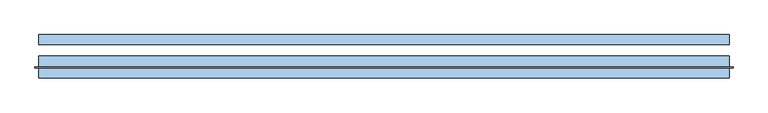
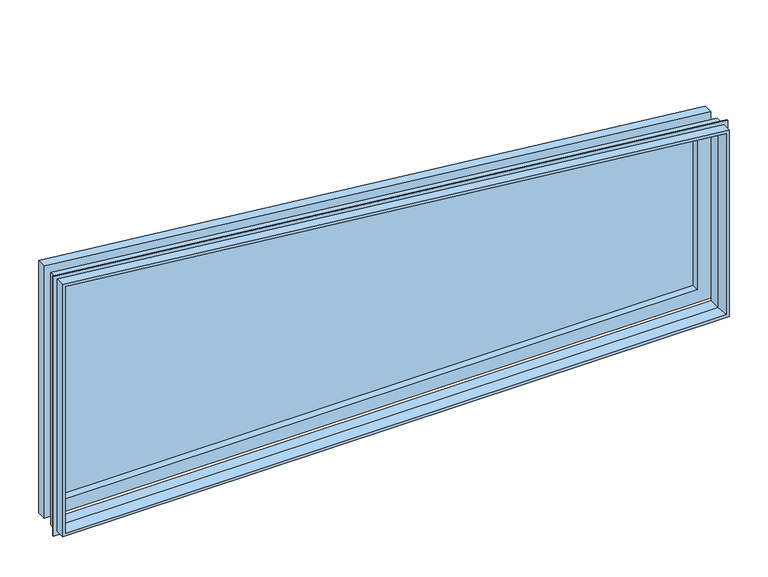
"""IFC4 building model written with IfcOpenShell, lengths in millimetres: window geometry, trapzoid_1824 : Menuiserie 1.1."""

import ifcopenshell
import ifcopenshell.guid

model = None  # the IFC model being written
_history = None  # IfcOwnerHistory: only IFC2X3 demands one
_inside = {}  # id of a spatial element -> (the spatial element, [elements in it])
_under = {}  # id of a project, library or spatial element -> (it, [spatial elements below it])
_declared = {}  # id of a project -> (the project, [libraries it declares])
_typed = {}  # id of a type object -> (the type object, [elements of that type])
_made_of = {}  # id of a material, layer set ... -> (it, [elements and type objects made of it])


def new_model(schema):
    """Start an empty IFC model of exactly this schema.

    Asked for "IFC4X3", IfcOpenShell would pick the latest addendum, in which some entities
    have other attributes; the version numbers below select the first issue.
    IFC2X3 requires an IfcOwnerHistory on every rooted entity: one is made here for all.
    """
    global model, _history
    if schema == "IFC4X3":
        model = ifcopenshell.file(schema_version=(4, 3, 0, 0))
    else:
        model = ifcopenshell.file(schema=schema)
    _inside.clear()
    _under.clear()
    _declared.clear()
    _typed.clear()
    _made_of.clear()
    _history = None
    if model.schema == "IFC2X3":
        org = make("IfcOrganization", Name="unknown")
        user = make(
            "IfcPersonAndOrganization",
            ThePerson=make("IfcPerson", FamilyName="unknown"),
            TheOrganization=org,
        )
        app = make(
            "IfcApplication",
            ApplicationDeveloper=org,
            Version="unknown",
            ApplicationFullName="unknown",
            ApplicationIdentifier="unknown",
        )
        _history = make(
            "IfcOwnerHistory",
            OwningUser=user,
            OwningApplication=app,
            ChangeAction="ADDED",
            CreationDate=0,
        )
    return model


def make(cls, **values):
    """One entity of the class cls with the attributes given. An attribute that is None is left unset."""
    return model.create_entity(
        cls, **{name: value for name, value in values.items() if value is not None}
    )


def rooted(cls, **values):
    """An entity with a GlobalId (a new one), such as an element, a storey or a relation."""
    return make(cls, GlobalId=ifcopenshell.guid.new(), OwnerHistory=_history, **values)


def si_unit(unit_type, name, prefix=None):
    """IfcSIUnit, for example si_unit("LENGTHUNIT", "METRE", prefix="MILLI")."""
    return make("IfcSIUnit", UnitType=unit_type, Prefix=prefix, Name=name)


def assignment(units):
    """IfcUnitAssignment: the units of a project."""
    return None if units is None else make("IfcUnitAssignment", Units=units)


def point(xyz):
    """IfcCartesianPoint."""
    return None if xyz is None else make("IfcCartesianPoint", Coordinates=xyz)


def direction(xyz):
    """IfcDirection."""
    return None if xyz is None else make("IfcDirection", DirectionRatios=xyz)


def frame(location, z_axis=None, x_axis=None):
    """IfcAxis2Placement3D, a coordinate frame: its origin and axes. An axis left out is left unset."""
    return make(
        "IfcAxis2Placement3D",
        Location=point(location),
        Axis=direction(z_axis),
        RefDirection=direction(x_axis),
    )


def origin():
    """The frame at (0, 0, 0) with its axes left unset."""
    return frame((0.0, 0.0, 0.0))


def place(relative_to, where):
    """IfcLocalPlacement: puts the frame where relative to a parent placement (None: the world)."""
    return make(
        "IfcLocalPlacement", PlacementRelTo=relative_to, RelativePlacement=where
    )


def context(
    kind, dimensions, precision=None, world=None, true_north=None, identifier=None
):
    """IfcGeometricRepresentationContext, for example the 3D "Model" context."""
    return make(
        "IfcGeometricRepresentationContext",
        ContextIdentifier=identifier,
        ContextType=kind,
        CoordinateSpaceDimension=dimensions,
        Precision=precision,
        WorldCoordinateSystem=world,
        TrueNorth=true_north,
    )


def project(units=None, contexts=None):
    """IfcProject with its units and contexts."""
    return rooted(
        "IfcProject",
        Name="project",
        RepresentationContexts=contexts,
        UnitsInContext=assignment(units),
    )


def spatial(cls, under=None, at=None, **own):
    """A site, building, storey or space (cls), placed at a placement, below another one or the project."""
    s = rooted(cls, ObjectPlacement=at, **own)
    if under is not None:
        _under.setdefault(under.id(), (under, []))[1].append(s)
    return s


def polyline(points):
    """IfcPolyline through the points."""
    return make("IfcPolyline", Points=[point(p) for p in points])


def outline(outer, holes=None, kind="AREA"):
    """IfcArbitraryClosedProfileDef: a profile drawn as a closed curve; with holes, ...WithVoids."""
    if holes is None:
        return make("IfcArbitraryClosedProfileDef", ProfileType=kind, OuterCurve=outer)
    return make(
        "IfcArbitraryProfileDefWithVoids",
        ProfileType=kind,
        OuterCurve=outer,
        InnerCurves=holes,
    )


def extrude(swept, where, along, depth):
    """IfcExtrudedAreaSolid: the profile swept, set in the frame where, extruded along a direction by depth."""
    return make(
        "IfcExtrudedAreaSolid",
        SweptArea=swept,
        Position=where,
        ExtrudedDirection=direction(along),
        Depth=depth,
    )


def faces_of(points, faces, orient=None, outer=None):
    """IfcFace entities. A face is a list of loops; a loop is a list of indices into points, from 0.

    orient and outer hold one flag for each loop. By default every Orientation is true, the
    first loop of a face is its IfcFaceOuterBound and the others are IfcFaceBound.
    """
    made = []
    for i, loops in enumerate(faces):
        bounds = []
        for j, loop in enumerate(loops):
            is_outer = j == 0 if outer is None else outer[i][j]
            bounds.append(
                make(
                    "IfcFaceOuterBound" if is_outer else "IfcFaceBound",
                    Bound=make("IfcPolyLoop", Polygon=[points[k] for k in loop]),
                    Orientation=True if orient is None else orient[i][j],
                )
            )
        made.append(make("IfcFace", Bounds=bounds))
    return made


def faceted_brep(points, faces, orient=None, outer=None, voids=None):
    """IfcFacetedBrep: a solid bounded by flat faces; with voids (closed shells), ...WithVoids."""
    shared = [point(p) for p in points]
    hull = make("IfcClosedShell", CfsFaces=faces_of(shared, faces, orient, outer))
    if voids is None:
        return make("IfcFacetedBrep", Outer=hull)
    return make(
        "IfcFacetedBrepWithVoids",
        Outer=hull,
        Voids=[
            make(cls, CfsFaces=faces_of(shared, fs, o, b)) for cls, fs, o, b in voids
        ],
    )


def shape(context_of_items, identifier, shape_type, items):
    """IfcShapeRepresentation: the items that make up one representation, for example the "Body"."""
    return make(
        "IfcShapeRepresentation",
        ContextOfItems=context_of_items,
        RepresentationIdentifier=identifier,
        RepresentationType=shape_type,
        Items=items,
    )


def source(mapping_origin, context_of_items, identifier, shape_type, items):
    """IfcRepresentationMap: a shape defined once, which mapped items show again and again."""
    return make(
        "IfcRepresentationMap",
        MappingOrigin=mapping_origin,
        MappedRepresentation=shape(context_of_items, identifier, shape_type, items),
    )


def transform(
    local_origin,
    x_axis=None,
    y_axis=None,
    z_axis=None,
    scale=None,
    scale2=None,
    scale3=None,
    uniform=True,
):
    """IfcCartesianTransformationOperator3D, or its non-uniform kind. x_axis, y_axis, z_axis: its Axis1, 2, 3."""
    if uniform:
        return make(
            "IfcCartesianTransformationOperator3D",
            Axis1=direction(x_axis),
            Axis2=direction(y_axis),
            LocalOrigin=point(local_origin),
            Scale=scale,
            Axis3=direction(z_axis),
        )
    return make(
        "IfcCartesianTransformationOperator3DnonUniform",
        Axis1=direction(x_axis),
        Axis2=direction(y_axis),
        LocalOrigin=point(local_origin),
        Scale=scale,
        Axis3=direction(z_axis),
        Scale2=scale2,
        Scale3=scale3,
    )


def mapped(mapping_source, mapping_target):
    """IfcMappedItem: shows the shape of a source again, moved by a transform."""
    return make(
        "IfcMappedItem", MappingSource=mapping_source, MappingTarget=mapping_target
    )


def made_of(thing, what):
    """Note that an element or type object is made of a material, layer set ...; save() writes the relation."""
    if what is not None:
        _made_of.setdefault(what.id(), (what, []))[1].append(thing)
    return thing


def element(
    cls,
    number,
    at=None,
    inside=None,
    cuts=None,
    type_object=None,
    material=None,
    context=None,
    identifier="Body",
    shape_type=None,
    held_by="IfcProductDefinitionShape",
    body=None,
    shapes=None,
    **own,
):
    """One element of the class cls, such as IfcWall. Its Tag is "e" and its number.

    at: its placement. inside: the storey or other place that contains it. cuts: it is an
    opening in that element (IfcRelVoidsElement). A single representation is given by context,
    identifier, shape_type and body (its items); several are given by shapes. held_by: the class
    of the entity that holds the representations. save() writes the other relations.
    """
    e = rooted(cls, Tag="e%d" % number, ObjectPlacement=at, **own)
    if body is not None:
        shapes = [shape(context, identifier, shape_type, body)]
    if shapes is not None:
        e.Representation = make(held_by, Representations=shapes)
    if inside is not None:
        _inside.setdefault(inside.id(), (inside, []))[1].append(e)
    if cuts is not None:
        rooted(
            "IfcRelVoidsElement", RelatingBuildingElement=cuts, RelatedOpeningElement=e
        )
    if type_object is not None:
        _typed.setdefault(type_object.id(), (type_object, []))[1].append(e)
    return made_of(e, material)


def aggregate(whole, parts):
    """IfcRelAggregates: a whole, such as a stair, and the parts it consists of."""
    return rooted("IfcRelAggregates", RelatingObject=whole, RelatedObjects=parts)


def save(model, path):
    """Write the relations noted so far, then the file.

    IfcRelAggregates (storeys below a building ...), IfcRelContainedInSpatialStructure (elements
    in a storey), IfcRelDefinesByType, IfcRelAssociatesMaterial and IfcRelDeclares: one each for
    every whole, place, type object, material and project.
    """
    for whole, parts in _under.values():
        aggregate(whole, parts)
    for where, things in _inside.values():
        rooted(
            "IfcRelContainedInSpatialStructure",
            RelatedElements=things,
            RelatingStructure=where,
        )
    for kind, things in _typed.values():
        rooted("IfcRelDefinesByType", RelatedObjects=things, RelatingType=kind)
    for what, things in _made_of.values():
        rooted("IfcRelAssociatesMaterial", RelatedObjects=things, RelatingMaterial=what)
    for by, libraries in _declared.values():
        rooted("IfcRelDeclares", RelatingContext=by, RelatedDefinitions=libraries)
    model.write(path)


def window_23208b70(model_context):
    return source(origin(), model_context, "Body", "SolidModel", [
        extrude(outline(polyline([(1746.2625913, -1207.95), (958.85, -1207.95), (958.85, 903.15), (1524.3770402, 903.15), (1746.2625913, -1207.95)])), frame((0.0, -59.53125, 0.0), z_axis=(0.0, 1.0, 0.0), x_axis=(0.0, 0.0, 1.0)), (0.0, 0.0, 1.0), 3.175),
        faceted_brep([(947.6, -84.93125, 1564.4), (-1252.4, -84.93125, 1795.6293176), (-1252.4, -84.93125, 914.4), (947.6, -84.93125, 914.4), (903.15, -84.93125, 958.85), (-1207.95, -84.93125, 958.85), (-1207.95, -84.93125, 1746.2625913), (903.15, -84.93125, 1524.3770402), (947.6, -53.18125, 914.4), (947.6, -53.18125, 1564.4), (-1252.4, -53.18125, 914.4), (-1252.4, -53.18125, 1795.6293176), (903.15, -53.18125, 1524.3770402), (903.15, -53.18125, 958.85), (-1207.95, -53.18125, 1746.2625913), (-1207.95, -53.18125, 958.85)], [[[0, 1, 2, 3], [4, 5, 6, 7]], [[3, 8, 9, 0]], [[2, 10, 8, 3]], [[1, 11, 10, 2]], [[7, 12, 13, 4]], [[6, 14, 12, 7]], [[5, 15, 14, 6]], [[4, 13, 15, 5]], [[9, 8, 10, 11], [13, 12, 14, 15]], [[0, 9, 11, 1]]]),
        faceted_brep([(928.55, -121.075, 1547.247303), (928.55, -159.175, 1547.247303), (-1233.35, -159.175, 1774.4721492), (-1233.35, -121.075, 1774.4721492), (-1233.35, -159.175, 933.45), (-1233.35, -121.075, 933.45), (928.55, -159.175, 933.45), (928.55, -121.075, 933.45), (-1265.1, -159.175, 1809.7340965), (-1265.1, -159.175, 901.7), (960.3, -159.175, 901.7), (960.3, -159.175, 1575.8351314), (947.6, -159.175, 1564.4), (947.6, -159.175, 914.4), (-1252.4, -159.175, 914.4), (-1252.4, -159.175, 1795.6293176), (947.6, -121.075, 1564.4), (947.6, -121.075, 914.4), (-1252.4, -121.075, 914.4), (-1252.4, -121.075, 1795.6293176), (-1252.4, -156.0, 914.4), (-1252.4, -156.0, 1795.6293176), (947.6, -156.0, 914.4), (947.6, -156.0, 1564.4), (960.3, -156.0, 901.7), (960.3, -156.0, 1575.8351314), (-1265.1, -156.0, 901.7), (-1265.1, -156.0, 1809.7340965), (-1252.4, -190.925, 1795.6293176), (-1252.4, -190.925, 914.4), (947.6, -190.925, 914.4), (947.6, -190.925, 1564.4), (937.8109278, -190.925, 1555.5858798), (937.8109278, -190.925, 924.1890722), (-1242.6109278, -190.925, 924.1890722), (-1242.6109278, -190.925, 1784.7574515)], [[[0, 1, 2, 3]], [[3, 2, 4, 5]], [[5, 4, 6, 7]], [[7, 6, 1, 0]], [[8, 9, 10, 11], [12, 13, 14, 15]], [[16, 17, 18, 19], [3, 5, 7, 0]], [[19, 18, 20, 21]], [[17, 22, 20, 18]], [[23, 22, 17, 16]], [[10, 24, 25, 11]], [[9, 26, 24, 10]], [[8, 27, 26, 9]], [[25, 24, 26, 27], [21, 20, 22, 23]], [[16, 19, 21, 23]], [[11, 25, 27, 8]], [[28, 29, 30, 31], [32, 33, 34, 35]], [[35, 34, 4, 2]], [[33, 6, 4, 34]], [[1, 6, 33, 32]], [[30, 13, 12, 31]], [[29, 14, 13, 30]], [[28, 15, 14, 29]], [[1, 32, 35, 2]], [[31, 12, 15, 28]]]),
    ])


if __name__ == "__main__":
    model = new_model("IFC4")
    model_context = context("Model", 3, world=origin())
    ifc_project = project(units=[si_unit("LENGTHUNIT", "METRE", prefix="MILLI")], contexts=[model_context])
    site = spatial("IfcSite", under=ifc_project)
    building = spatial("IfcBuilding", under=site)
    placement = place(None, origin())
    window_shape = window_23208b70(model_context)
    element("IfcWindow", 1, ObjectType="trapzoid_1824 : Menuiserie 1.1", at=placement, inside=building, context=model_context, shape_type="MappedRepresentation", body=[
        mapped(window_shape, transform((0.0, 0.0, 0.0), x_axis=(1.0, 0.0, 0.0), y_axis=(0.0, 1.0, 0.0), z_axis=(0.0, 0.0, 1.0))),
    ])
    save(model, "model.ifc")
